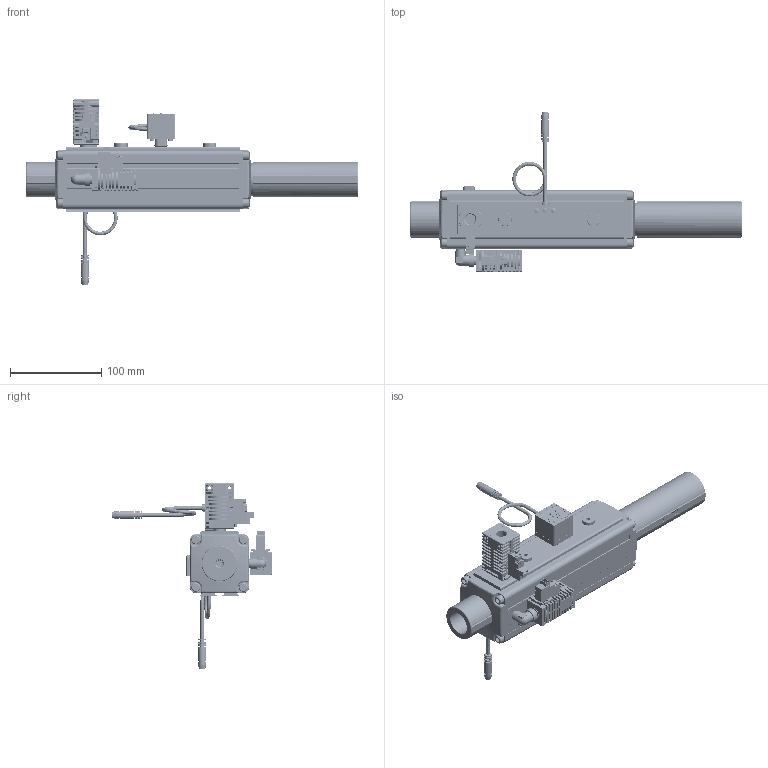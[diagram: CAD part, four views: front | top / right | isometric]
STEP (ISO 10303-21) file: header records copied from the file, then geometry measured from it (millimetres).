
FILE_DESCRIPTION( ( 'Unknown' ), '1' );
FILE_NAME( 'C:/Documents and Settings/Administrator/官帕 拳搁/PM 犁荐沥/PM303X1A-34-A3 R3-CL-S2.stp', 'Unknown', ( 'Unknown' ), ( 'Unknown' ), 'PSStep 10.0', 'Unknown', ' ' );
FILE_SCHEMA( ( 'AUTOMOTIVE_DESIGN { 1 0 10303 214 1 1 1 1 }' ) );
Length unit declared in the file: millimetre
Products named in the file (8): Assem1; 1_0_36_0; VTS-01_35_0; Double Tread 18M-18M_35_0_3; VP20-03-F1-C_35; VMS14_CON_PT14_7_0; MS18 CON_4_0; Elbow_18_double
Bounding box: 363.6 x 174.19 x 203.19 mm (x, y, z)
Volume: 1310909.3 mm3; surface area: 533332 mm2
Topology: 14 solids, 124 shells, 6774 faces, 17712 edges, 11560 vertices
Faces by surface type: plane 4370, cylinder 1810, cone 280, torus 164, bspline 110, extrusion 26, sphere 14
Full cylindrical faces by diameter (mm): 0.13 x2, 0.6 x2, 0.623 x2, 0.8 x4, 1 x36, 1.158 x2, 1.2 x8, 1.256 x2, 1.265 x2, 1.8 x4, 2.2 x4, 2.5 x12, 3 x8, 3.1 x4, 3.2 x10, 3.242 x8, 3.4 x16, 4 x8, 4.134 x16, 4.2 x8, 5 x4, 5.1 x2, 5.4 x4, 5.5 x2, 5.6 x2, 5.8 x2, 6 x28, 6.2 x2, 6.35 x2, 6.5 x20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
Entity records: 133122 total; most frequent: CARTESIAN_POINT 24642, DIRECTION 16594, ORIENTED_EDGE 16440, EDGE_CURVE 8220, VECTOR 5764, LINE 5751, VERTEX_POINT 5566, AXIS2_PLACEMENT_3D 5415
